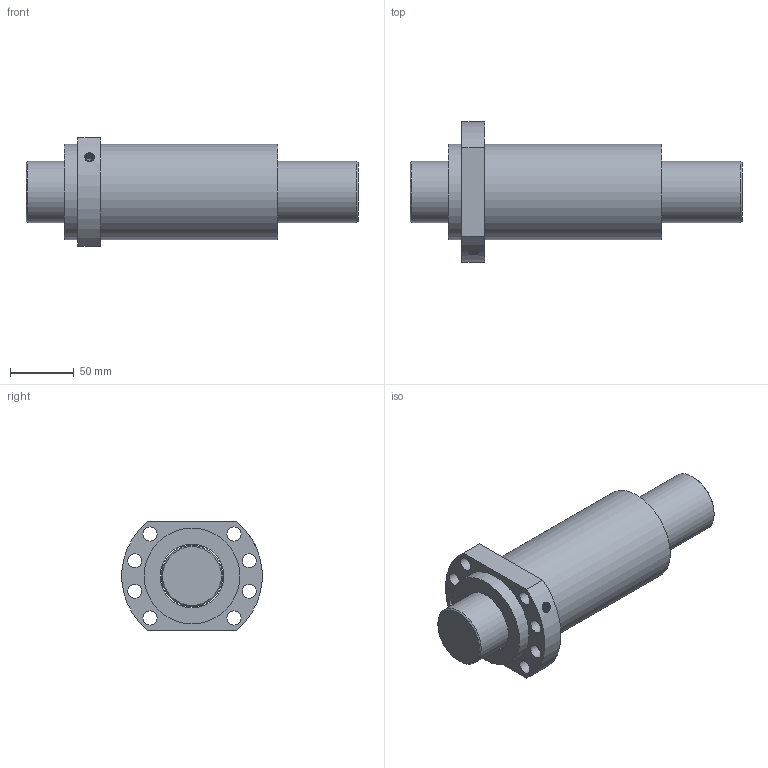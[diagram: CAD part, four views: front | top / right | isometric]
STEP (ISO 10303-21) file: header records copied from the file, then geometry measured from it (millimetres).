
FILE_DESCRIPTION (( 'STEP AP203' ), '1' );
FILE_NAME ('SFA5050-2.8.STEP', '2023-08-16T08:34:40', ( '' ), ( '' ), 'SwSTEP 2.0', 'SolidWorks 2022', '' );
FILE_SCHEMA (( 'CONFIG_CONTROL_DESIGN' ));
Length unit declared in the file: millimetre
Products named in the file (1): SFA5050-2.8
Bounding box: 260 x 109.65 x 85 mm (x, y, z)
Volume: 936066.3 mm3; surface area: 126627 mm2
Topology: 2 solids, 2 shells, 32 faces, 76 edges, 50 vertices
Faces by surface type: cylinder 18, plane 9, cone 3, bspline 2
Full cylindrical faces by diameter (mm): 3 x1, 6.917 x1, 11 x8, 48 x1, 50 x1, 75 x2
Entity records: 2373 total; most frequent: CARTESIAN_POINT 1615, DIRECTION 140, ORIENTED_EDGE 108, EDGE_LOOP 71, AXIS2_PLACEMENT_3D 66, EDGE_CURVE 54, FACE_OUTER_BOUND 46, VERTEX_POINT 45
